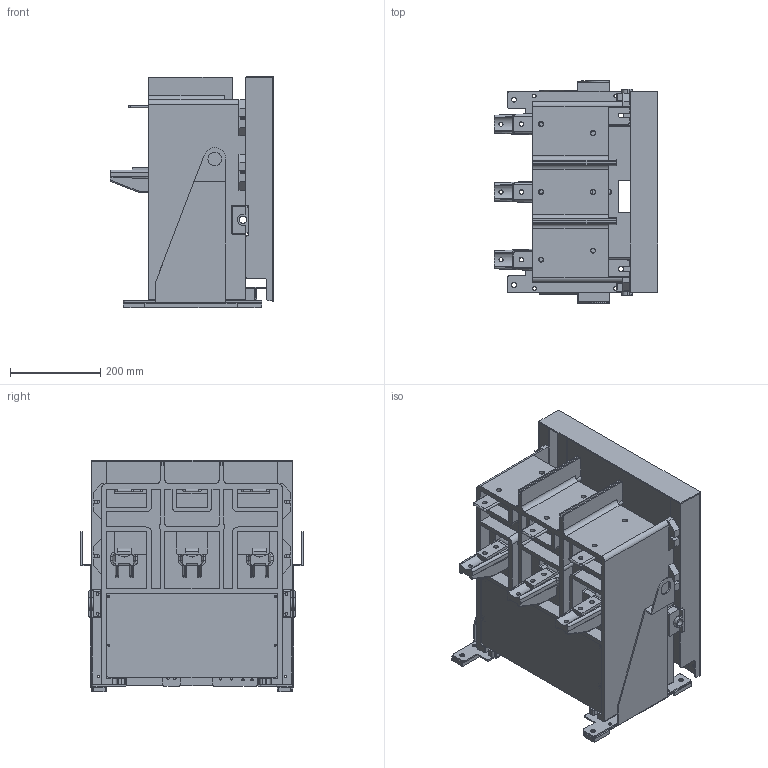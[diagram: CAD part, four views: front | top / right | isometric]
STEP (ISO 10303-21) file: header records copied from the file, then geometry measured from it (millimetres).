
FILE_DESCRIPTION(/* description */ (''),/* implementation_level */ '2;1');
FILE_NAME(/* name */ 'HCA8CF.stp',/* time_stamp */ '2014-12-02T11:38:04+09:00',/* author */ (''),/* organization */ (''),/* preprocessor_version */ 'ST-DEVELOPER v15',/* originating_system */ 'SIEMENS PLM Software NX 9.0',/* authorisation */ '');
FILE_SCHEMA (('CONFIG_CONTROL_DESIGN'));
Length unit declared in the file: millimetre
Products named in the file (18): 4CE-00001 HOLDER; 3CE-31118 SIDE COVER(R); 3CE-31117 SIDE COVER(L); 3CE-11023 FRONT COVER(NEW); 3CE-01144 REAR COVER; 3CE-01156 FIXED SUPPORT(L); 3CE-01155 FIXED SUPPORT(R); 3CE-01137 BOTTOM PLATE; 3CE-01098 SPRING GUIDE; 4CE-01103 COIL SUPPORT PLATE; 4CE-01102 COIL SUPPORT PLATE; 3CE-01093 CC SUPPORT; 3CE-01099 FLEXIBLE SHUNT(C); 4CE-31041 UPPER TERMINAL(C); 4CE-31039 UPPER TERMINAL(L),(R); 3CE-01091 INSULATION FRAME; HCA84C ASS'Y; HCA84C ASS'Y_dwg1
Assembly tree (21 placements, depth 3):
  HCA84C ASS'Y_dwg1
    HCA84C ASS'Y
      3CE-01091 INSULATION FRAME
      4CE-31039 UPPER TERMINAL(L),(R)  x2
      4CE-31041 UPPER TERMINAL(C)
      3CE-01099 FLEXIBLE SHUNT(C)  x3
      3CE-01093 CC SUPPORT
      4CE-01102 COIL SUPPORT PLATE
      4CE-01103 COIL SUPPORT PLATE
      3CE-01098 SPRING GUIDE
      3CE-01137 BOTTOM PLATE
      3CE-01155 FIXED SUPPORT(R)
      3CE-01156 FIXED SUPPORT(L)
      3CE-01144 REAR COVER
      3CE-11023 FRONT COVER(NEW)
      3CE-31117 SIDE COVER(L)
      3CE-31118 SIDE COVER(R)
      4CE-00001 HOLDER  x2
Bounding box: 362 x 491.4 x 512.3 mm (x, y, z)
Volume: 9493761.2 mm3; surface area: 2865470.5 mm2
Topology: 20 solids, 20 shells, 1153 faces, 3257 edges, 2151 vertices
Faces by surface type: plane 631, cylinder 454, bspline 32, torus 27, cone 9
Full cylindrical faces by diameter (mm): 4 x18, 5 x11, 5.16 x1, 5.2 x2, 6 x7, 6.4 x8, 8 x4, 8.2 x4, 8.5 x4, 9 x19, 10 x31, 11 x14, 14 x4, 16.3 x2, 30 x3
Entity records: 36675 total; most frequent: CARTESIAN_POINT 6710, DIRECTION 5803, ORIENTED_EDGE 5656, EDGE_CURVE 2828, AXIS2_PLACEMENT_3D 1965, VERTEX_POINT 1928, LINE 1873, VECTOR 1873
